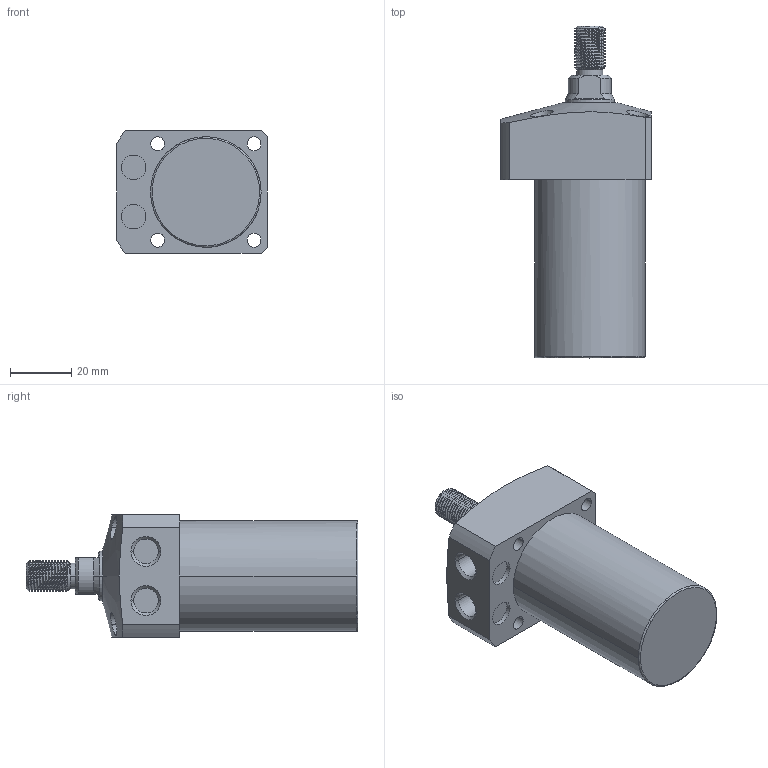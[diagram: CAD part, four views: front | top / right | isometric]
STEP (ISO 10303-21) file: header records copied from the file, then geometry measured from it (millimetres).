
FILE_DESCRIPTION((' '),'2;1');
FILE_NAME( 'TLL-036CT-050.STEP.stp', '2025-10-24T16:39:43', (' '), ('--- Datakit www.datakit.com---'), ' Datakit CrossCadWare V2024.1 Dec 21 2023', 'Mastercam 2025', ' ');
FILE_SCHEMA(('AUTOMOTIVE_DESIGN { 1 0 10303 214 1 1 1 1 }'));
Length unit declared in the file: millimetre
Products named in the file (1): TLL-036CT-050
Bounding box: 49 x 108 x 40 mm (x, y, z)
Volume: 101934.5 mm3; surface area: 17223.4 mm2
Topology: 1 solids, 1 shells, 104 faces, 359 edges, 268 vertices
Faces by surface type: cylinder 61, plane 23, cone 16, torus 2, bspline 2
Entity records: 11738 total; most frequent: CARTESIAN_POINT 8713, ORIENTED_EDGE 718, DIRECTION 532, EDGE_CURVE 359, VERTEX_POINT 268, AXIS2_PLACEMENT_3D 221, B_SPLINE_CURVE_WITH_KNOTS 151, EDGE_LOOP 123
